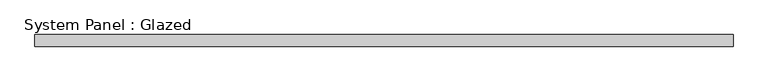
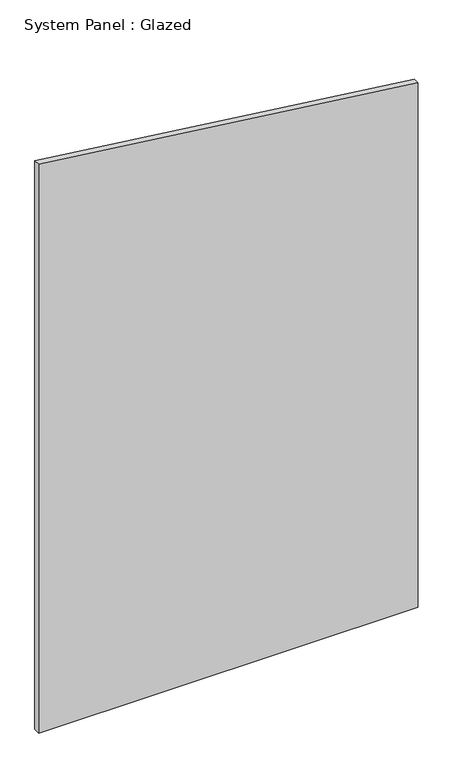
"""IFC4 building model written with IfcOpenShell, lengths in millimetres: plate geometry, System Panel : Glazed."""

from ifc_helpers import new_model, si_unit, frame, origin, place, context, project, spatial, polyline, outline, extrude, source, transform, mapped, element, save


def system_panel_glazed_0b8ca4ec(model_context):
    return source(origin(), model_context, "Body", "SweptSolid", [
        extrude(outline(polyline([(0.0, -726.9631579), (0.0, 726.9631579), (2123.5953458, 726.9631579), (2302.1150501, -726.9631579), (0.0, -726.9631579)])), frame((0.0, 24.5, 0.0), z_axis=(0.0, 1.0, 0.0), x_axis=(0.0, 0.0, 1.0)), (0.0, 0.0, 1.0), 25.0),
    ])


if __name__ == "__main__":
    model = new_model("IFC4")
    model_context = context("Model", 3, world=origin())
    ifc_project = project(units=[si_unit("LENGTHUNIT", "METRE", prefix="MILLI")], contexts=[model_context])
    site = spatial("IfcSite", under=ifc_project)
    building = spatial("IfcBuilding", under=site)
    placement = place(None, origin())
    system_panel_glazed_shape = system_panel_glazed_0b8ca4ec(model_context)
    element("IfcPlate", 1, ObjectType="System Panel : Glazed", at=placement, inside=building, context=model_context, shape_type="MappedRepresentation", body=[
        mapped(system_panel_glazed_shape, transform((0.0, 0.0, 0.0), x_axis=(1.0, 0.0, 0.0), y_axis=(0.0, 1.0, 0.0), z_axis=(0.0, 0.0, 1.0))),
    ])
    save(model, "model.ifc")
